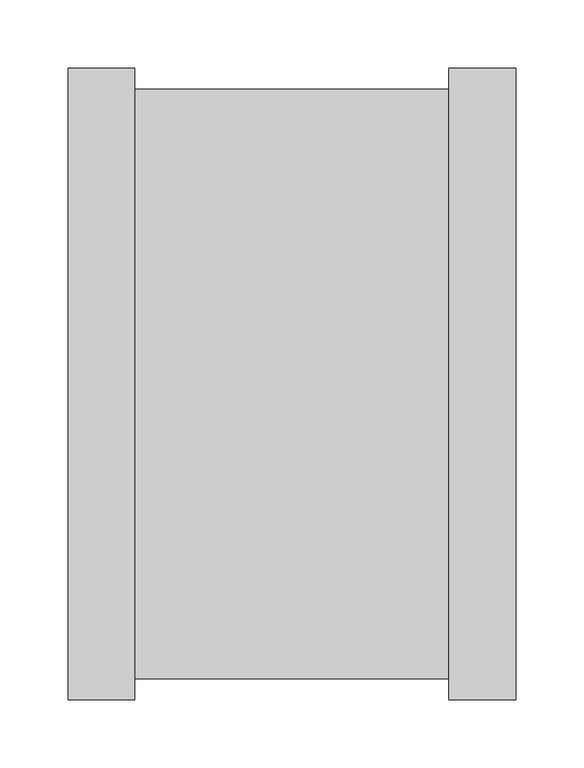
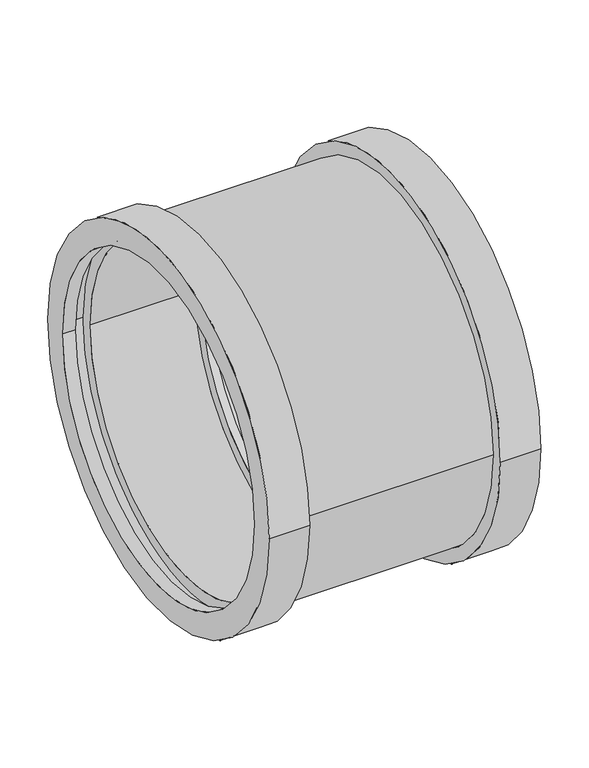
"""IFC4 building model written with IfcOpenShell, lengths in millimetres: pipe fitting geometry, AWADUKT PP Union DSM : Blue No PID."""

from ifc_helpers import new_model, si_unit, frame, origin, place, context, project, spatial, polyline, circle_curve, source, transform, mapped, element, save
from ifc_brep_helpers import plane_surface, cylinder_surface, revolved_surface, advanced_brep


def pipe_fitting_9bc79c39(model_context):
    return source(origin(), model_context, "Body", "AdvancedBrep", [
        advanced_brep(
        [(-125.9, -200.0, 0.0), (-125.9, 200.0, 0.0), (0.0, 200.0, 0.0), (0.0, -200.0, 0.0), (-143.8, -215.4, 0.0), (-143.8, 215.4, 0.0), (-125.9, 215.4, 0.0), (-125.9, -215.4, 0.0), (-159.2, -200.0, 0.0), (-159.2, 200.0, 0.0), (-143.8, 200.0, 0.0), (-143.8, -200.0, 0.0), (-110.5, -230.8, 0.0), (-110.5, 230.8, 0.0), (-159.2, 230.8, 0.0), (-159.2, -230.8, 0.0), (119.5, -215.4, 0.0), (119.5, 215.4, 0.0), (-110.5, 215.4, 0.0), (-110.5, -215.4, 0.0), (168.2, -230.8, 0.0), (168.2, 230.8, 0.0), (119.5, 230.8, 0.0), (119.5, -230.8, 0.0), (152.8, -200.0, 0.0), (152.8, 200.0, 0.0), (168.2, 200.0, 0.0), (168.2, -200.0, 0.0), (134.9, -215.4, 0.0), (134.9, 215.4, 0.0), (152.8, 215.4, 0.0), (152.8, -215.4, 0.0), (9.0, -200.0, 0.0), (9.0, 200.0, 0.0), (134.9, 200.0, 0.0), (134.9, -200.0, 0.0), (0.0, -184.6, 0.0), (0.0, 184.6, 0.0), (9.0, 184.6, 0.0), (9.0, -184.6, 0.0)],
        [
            (0, 1, circle_curve(frame((-125.9, 0.0, 0.0), z_axis=(-1.0, 0.0, 0.0), x_axis=(0.0, 1.0, 0.0)), 200.0)),
            (1, 2),
            (2, 3, circle_curve(frame((0.0, 0.0, 0.0), z_axis=(1.0, 0.0, 0.0), x_axis=(0.0, 1.0, 0.0)), 200.0)),
            (3, 0),
            (4, 5, circle_curve(frame((-143.8, 0.0, 0.0), z_axis=(-1.0, 0.0, 0.0), x_axis=(0.0, 1.0, 0.0)), 215.4)),
            (5, 6),
            (6, 7, circle_curve(frame((-125.9, 0.0, 0.0), z_axis=(1.0, 0.0, 0.0), x_axis=(0.0, 1.0, 0.0)), 215.4)),
            (7, 4),
            (8, 9, circle_curve(frame((-159.2, 0.0, 0.0), z_axis=(-1.0, 0.0, 0.0), x_axis=(0.0, 1.0, 0.0)), 200.0)),
            (9, 10),
            (10, 11, circle_curve(frame((-143.8, 0.0, 0.0), z_axis=(1.0, 0.0, 0.0), x_axis=(0.0, 1.0, 0.0)), 200.0)),
            (11, 8),
            (12, 13, circle_curve(frame((-110.5, 0.0, 0.0), z_axis=(-1.0, 0.0, 0.0), x_axis=(0.0, 1.0, 0.0)), 230.8)),
            (13, 14),
            (14, 15, circle_curve(frame((-159.2, 0.0, 0.0), z_axis=(1.0, 0.0, 0.0), x_axis=(0.0, 1.0, 0.0)), 230.8)),
            (15, 12),
            (16, 17, circle_curve(frame((119.5, 0.0, 0.0), z_axis=(-1.0, 0.0, 0.0), x_axis=(0.0, 1.0, 0.0)), 215.4)),
            (17, 18),
            (18, 19, circle_curve(frame((-110.5, 0.0, 0.0), z_axis=(1.0, 0.0, 0.0), x_axis=(0.0, 1.0, 0.0)), 215.4)),
            (19, 16),
            (20, 21, circle_curve(frame((168.2, 0.0, 0.0), z_axis=(-1.0, 0.0, 0.0), x_axis=(0.0, 1.0, 0.0)), 230.8)),
            (21, 22),
            (22, 23, circle_curve(frame((119.5, 0.0, 0.0), z_axis=(1.0, 0.0, 0.0), x_axis=(0.0, 1.0, 0.0)), 230.8)),
            (23, 20),
            (24, 25, circle_curve(frame((152.8, 0.0, 0.0), z_axis=(-1.0, 0.0, 0.0), x_axis=(0.0, 1.0, 0.0)), 200.0)),
            (25, 26),
            (26, 27, circle_curve(frame((168.2, 0.0, 0.0), z_axis=(1.0, 0.0, 0.0), x_axis=(0.0, 1.0, 0.0)), 200.0)),
            (27, 24),
            (28, 29, circle_curve(frame((134.9, 0.0, 0.0), z_axis=(-1.0, 0.0, 0.0), x_axis=(0.0, 1.0, 0.0)), 215.4)),
            (29, 30),
            (30, 31, circle_curve(frame((152.8, 0.0, 0.0), z_axis=(1.0, 0.0, 0.0), x_axis=(0.0, 1.0, 0.0)), 215.4)),
            (31, 28),
            (32, 33, circle_curve(frame((9.0, 0.0, 0.0), z_axis=(-1.0, 0.0, 0.0), x_axis=(0.0, 1.0, 0.0)), 200.0)),
            (33, 34),
            (34, 35, circle_curve(frame((134.9, 0.0, 0.0), z_axis=(1.0, 0.0, 0.0), x_axis=(0.0, 1.0, 0.0)), 200.0)),
            (35, 32),
            (36, 37, circle_curve(frame((0.0, 0.0, 0.0), z_axis=(-1.0, 0.0, 0.0), x_axis=(0.0, 1.0, 0.0)), 184.6)),
            (37, 38),
            (38, 39, circle_curve(frame((9.0, 0.0, 0.0), z_axis=(1.0, 0.0, 0.0), x_axis=(0.0, 1.0, 0.0)), 184.6)),
            (39, 36),
            (1, 0, circle_curve(frame((-125.9, 0.0, 0.0), z_axis=(-1.0, 0.0, 0.0), x_axis=(0.0, -1.0, 0.0)), 200.0)),
            (3, 2, circle_curve(frame((0.0, 0.0, 0.0), z_axis=(1.0, 0.0, 0.0), x_axis=(0.0, -1.0, 0.0)), 200.0)),
            (6, 7, circle_curve(frame((-125.9, 0.0, 0.0), z_axis=(-1.0, 0.0, 0.0), x_axis=(0.0, -1.0, 0.0)), 215.4)),
            (5, 4, circle_curve(frame((-143.8, 0.0, 0.0), z_axis=(-1.0, 0.0, 0.0), x_axis=(0.0, -1.0, 0.0)), 215.4)),
            (10, 11, circle_curve(frame((-143.8, 0.0, 0.0), z_axis=(-1.0, 0.0, 0.0), x_axis=(0.0, -1.0, 0.0)), 200.0)),
            (9, 8, circle_curve(frame((-159.2, 0.0, 0.0), z_axis=(-1.0, 0.0, 0.0), x_axis=(0.0, -1.0, 0.0)), 200.0)),
            (14, 15, circle_curve(frame((-159.2, 0.0, 0.0), z_axis=(-1.0, 0.0, 0.0), x_axis=(0.0, -1.0, 0.0)), 230.8)),
            (13, 12, circle_curve(frame((-110.5, 0.0, 0.0), z_axis=(-1.0, 0.0, 0.0), x_axis=(0.0, -1.0, 0.0)), 230.8)),
            (18, 19, circle_curve(frame((-110.5, 0.0, 0.0), z_axis=(-1.0, 0.0, 0.0), x_axis=(0.0, -1.0, 0.0)), 215.4)),
            (17, 16, circle_curve(frame((119.5, 0.0, 0.0), z_axis=(-1.0, 0.0, 0.0), x_axis=(0.0, -1.0, 0.0)), 215.4)),
            (22, 23, circle_curve(frame((119.5, 0.0, 0.0), z_axis=(-1.0, 0.0, 0.0), x_axis=(0.0, -1.0, 0.0)), 230.8)),
            (21, 20, circle_curve(frame((168.2, 0.0, 0.0), z_axis=(-1.0, 0.0, 0.0), x_axis=(0.0, -1.0, 0.0)), 230.8)),
            (26, 27, circle_curve(frame((168.2, 0.0, 0.0), z_axis=(-1.0, 0.0, 0.0), x_axis=(0.0, -1.0, 0.0)), 200.0)),
            (25, 24, circle_curve(frame((152.8, 0.0, 0.0), z_axis=(-1.0, 0.0, 0.0), x_axis=(0.0, -1.0, 0.0)), 200.0)),
            (30, 31, circle_curve(frame((152.8, 0.0, 0.0), z_axis=(-1.0, 0.0, 0.0), x_axis=(0.0, -1.0, 0.0)), 215.4)),
            (29, 28, circle_curve(frame((134.9, 0.0, 0.0), z_axis=(-1.0, 0.0, 0.0), x_axis=(0.0, -1.0, 0.0)), 215.4)),
            (34, 35, circle_curve(frame((134.9, 0.0, 0.0), z_axis=(-1.0, 0.0, 0.0), x_axis=(0.0, -1.0, 0.0)), 200.0)),
            (33, 32, circle_curve(frame((9.0, 0.0, 0.0), z_axis=(-1.0, 0.0, 0.0), x_axis=(0.0, -1.0, 0.0)), 200.0)),
            (38, 39, circle_curve(frame((9.0, 0.0, 0.0), z_axis=(-1.0, 0.0, 0.0), x_axis=(0.0, -1.0, 0.0)), 184.6)),
            (37, 36, circle_curve(frame((0.0, 0.0, 0.0), z_axis=(-1.0, 0.0, 0.0), x_axis=(0.0, -1.0, 0.0)), 184.6)),
        ],
        [
            revolved_surface(polyline([(0.0, 200.0, 0.0), (-125.9, 200.0, 0.0)]), (4.5, 0.0, 0.0), (1.0, 0.0, 0.0)),
            revolved_surface(polyline([(-125.9, 215.4, 0.0), (-143.8, 215.4, 0.0)]), (4.5, 0.0, 0.0), (1.0, 0.0, 0.0)),
            revolved_surface(polyline([(-143.8, 200.0, 0.0), (-159.2, 200.0, 0.0)]), (4.5, 0.0, 0.0), (1.0, 0.0, 0.0)),
            cylinder_surface(frame((4.5, 0.0, 0.0), z_axis=(1.0, 0.0, 0.0), x_axis=(0.0, 1.0, 0.0)), 230.8),
            cylinder_surface(frame((4.5, 0.0, 0.0), z_axis=(1.0, 0.0, 0.0), x_axis=(0.0, 1.0, 0.0)), 215.4),
            revolved_surface(polyline([(168.2, 200.0, 0.0), (152.8, 200.0, 0.0)]), (4.5, 0.0, 0.0), (1.0, 0.0, 0.0)),
            revolved_surface(polyline([(152.8, 215.4, 0.0), (134.9, 215.4, 0.0)]), (4.5, 0.0, 0.0), (1.0, 0.0, 0.0)),
            revolved_surface(polyline([(134.9, 200.0, 0.0), (9.0, 200.0, 0.0)]), (4.5, 0.0, 0.0), (1.0, 0.0, 0.0)),
            revolved_surface(polyline([(9.0, 184.6, 0.0), (0.0, 184.6, 0.0)]), (4.5, 0.0, 0.0), (1.0, 0.0, 0.0)),
            revolved_surface(polyline([(0.0, -200.0, 0.0), (-125.9, -200.0, 0.0)]), (4.5, 0.0, 0.0), (1.0, 0.0, 0.0)),
            plane_surface(frame((-125.9, 0.0, 0.0), z_axis=(-1.0, 0.0, 0.0), x_axis=(0.0, -1.0, 0.0))),
            revolved_surface(polyline([(-125.9, -215.4, 0.0), (-143.8, -215.4, 0.0)]), (4.5, 0.0, 0.0), (1.0, 0.0, 0.0)),
            plane_surface(frame((-143.8, 0.0, 0.0), z_axis=(1.0, 0.0, 0.0), x_axis=(0.0, -1.0, 0.0))),
            revolved_surface(polyline([(-143.8, -200.0, 0.0), (-159.2, -200.0, 0.0)]), (4.5, 0.0, 0.0), (1.0, 0.0, 0.0)),
            plane_surface(frame((-159.2, 0.0, 0.0), z_axis=(-1.0, 0.0, 0.0), x_axis=(0.0, -1.0, 0.0))),
            cylinder_surface(frame((4.5, 0.0, 0.0), z_axis=(1.0, 0.0, 0.0), x_axis=(0.0, -1.0, 0.0)), 230.8),
            plane_surface(frame((-110.5, 0.0, 0.0), z_axis=(1.0, 0.0, 0.0), x_axis=(0.0, -1.0, 0.0))),
            cylinder_surface(frame((4.5, 0.0, 0.0), z_axis=(1.0, 0.0, 0.0), x_axis=(0.0, -1.0, 0.0)), 215.4),
            plane_surface(frame((119.5, 0.0, 0.0), z_axis=(-1.0, 0.0, 0.0), x_axis=(0.0, -1.0, 0.0))),
            plane_surface(frame((168.2, 0.0, 0.0), z_axis=(1.0, 0.0, 0.0), x_axis=(0.0, -1.0, 0.0))),
            revolved_surface(polyline([(168.2, -200.0, 0.0), (152.8, -200.0, 0.0)]), (4.5, 0.0, 0.0), (1.0, 0.0, 0.0)),
            plane_surface(frame((152.8, 0.0, 0.0), z_axis=(-1.0, 0.0, 0.0), x_axis=(0.0, -1.0, 0.0))),
            revolved_surface(polyline([(152.8, -215.4, 0.0), (134.9, -215.4, 0.0)]), (4.5, 0.0, 0.0), (1.0, 0.0, 0.0)),
            plane_surface(frame((134.9, 0.0, 0.0), z_axis=(1.0, 0.0, 0.0), x_axis=(0.0, -1.0, 0.0))),
            revolved_surface(polyline([(134.9, -200.0, 0.0), (9.0, -200.0, 0.0)]), (4.5, 0.0, 0.0), (1.0, 0.0, 0.0)),
            plane_surface(frame((9.0, 0.0, 0.0), z_axis=(1.0, 0.0, 0.0), x_axis=(0.0, -1.0, 0.0))),
            revolved_surface(polyline([(9.0, -184.6, 0.0), (0.0, -184.6, 0.0)]), (4.5, 0.0, 0.0), (1.0, 0.0, 0.0)),
            plane_surface(frame((0.0, 0.0, 0.0), z_axis=(-1.0, 0.0, 0.0), x_axis=(0.0, -1.0, 0.0))),
        ],
        [
            (0, [[1, 2, 3, 4]]),
            (1, [[5, 6, 7, 8]]),
            (2, [[9, 10, 11, 12]]),
            (3, [[13, 14, 15, 16]]),
            (4, [[17, 18, 19, 20]]),
            (3, [[21, 22, 23, 24]]),
            (5, [[25, 26, 27, 28]]),
            (6, [[29, 30, 31, 32]]),
            (7, [[33, 34, 35, 36]]),
            (8, [[37, 38, 39, 40]]),
            (9, [[41, -4, 42, -2]]),
            (10, [[43, -7], [-41, -1]]),
            (11, [[44, -8, -43, -6]]),
            (12, [[-44, -5], [45, -11]]),
            (13, [[46, -12, -45, -10]]),
            (14, [[47, -15], [-46, -9]]),
            (15, [[48, -16, -47, -14]]),
            (16, [[-48, -13], [49, -19]]),
            (17, [[50, -20, -49, -18]]),
            (18, [[51, -23], [-50, -17]]),
            (15, [[52, -24, -51, -22]]),
            (19, [[-52, -21], [53, -27]]),
            (20, [[54, -28, -53, -26]]),
            (21, [[55, -31], [-54, -25]]),
            (22, [[56, -32, -55, -30]]),
            (23, [[-56, -29], [57, -35]]),
            (24, [[58, -36, -57, -34]]),
            (25, [[-58, -33], [59, -39]]),
            (26, [[60, -40, -59, -38]]),
            (27, [[-42, -3], [-60, -37]]),
        ],
    ),
    ])


if __name__ == "__main__":
    model = new_model("IFC4")
    model_context = context("Model", 3, world=origin())
    ifc_project = project(units=[si_unit("LENGTHUNIT", "METRE", prefix="MILLI")], contexts=[model_context])
    site = spatial("IfcSite", under=ifc_project)
    building = spatial("IfcBuilding", under=site)
    placement = place(None, origin())
    pipe_fitting_shape = pipe_fitting_9bc79c39(model_context)
    element("IfcPipeFitting", 1, ObjectType="AWADUKT PP Union DSM : Blue No PID", at=placement, inside=building, context=model_context, shape_type="MappedRepresentation", body=[
        mapped(pipe_fitting_shape, transform((0.0, 0.0, 0.0), x_axis=(1.0, 0.0, 0.0), y_axis=(0.0, 1.0, 0.0), z_axis=(0.0, 0.0, 1.0))),
    ])
    save(model, "model.ifc")
